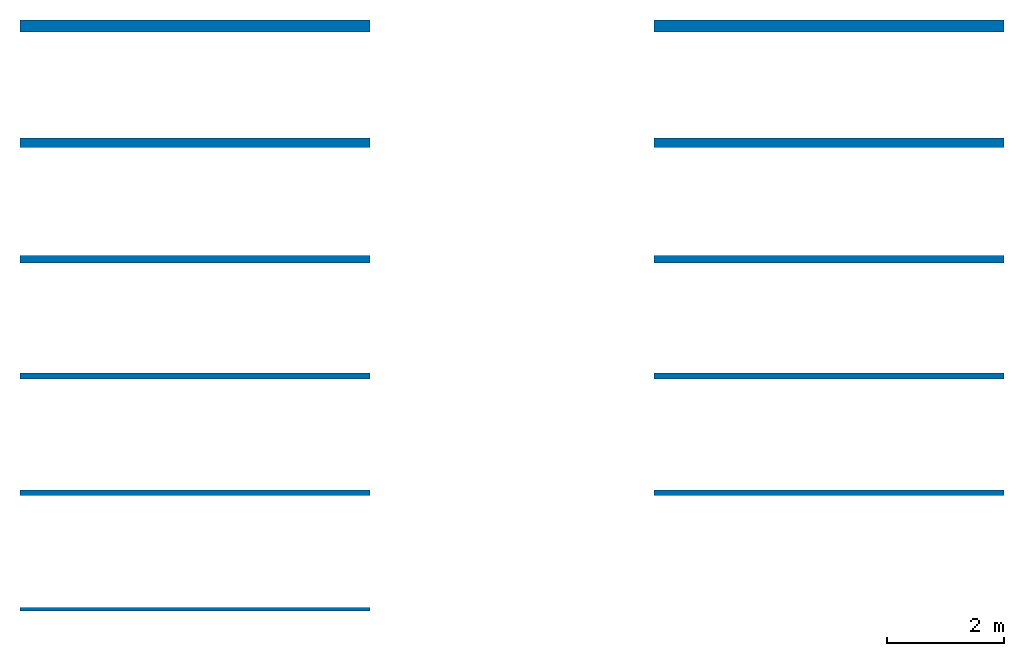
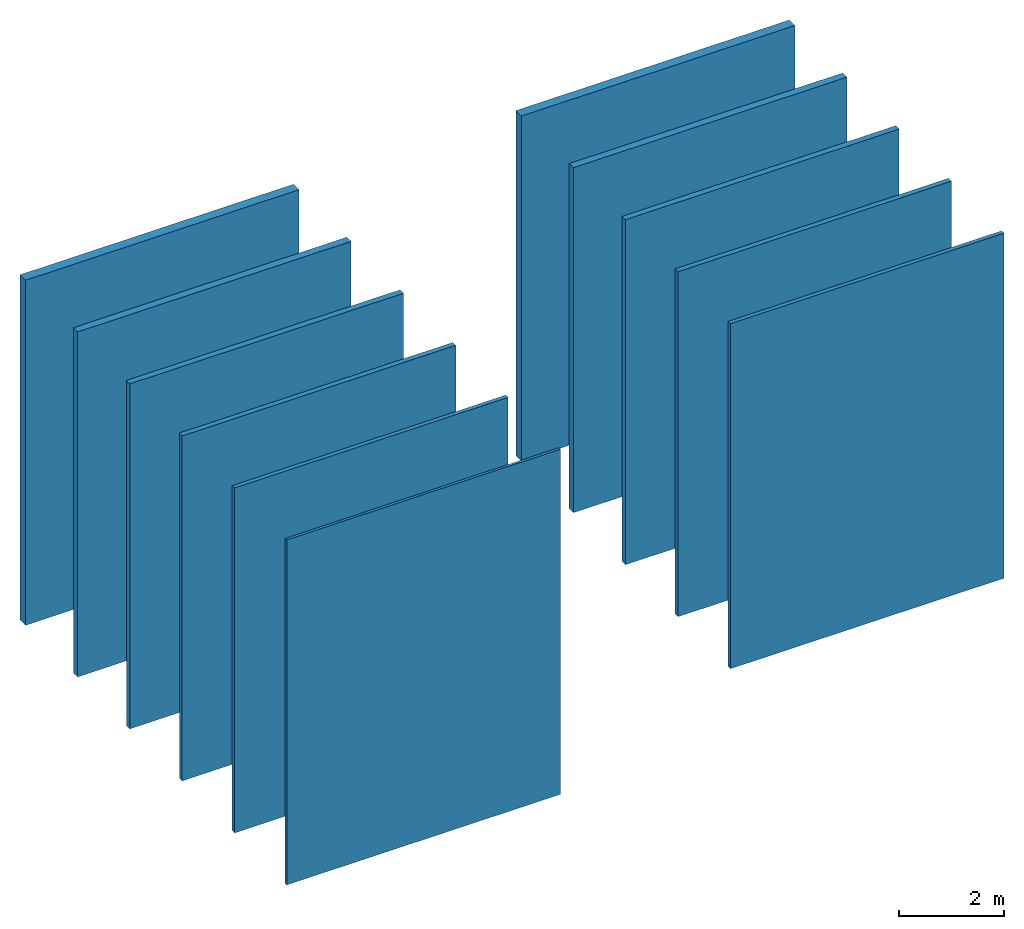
# One storey: 11 walls.
"""IFC2X3 building model written with IfcOpenShell, lengths in millimetres."""

from ifc_helpers import new_model, entity, si_unit, converted_unit, derived_unit, direction, frame, frame_2d, origin, place, context, subcontext, project, spatial, rectangle, extrude, material, layer, layer_set, layer_usage, type_object, element, save


model = new_model("IFC2X3")

# Units and contexts
model_context = context("Model", 3, precision=0.01, world=origin(), true_north=direction((6.12303176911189e-17, 1.0)))
context_of_model = context(None, 3, precision=0.01, world=origin(), true_north=direction((6.12303176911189e-17, 1.0)))
body_context = subcontext(model_context, "Body", "Model", "MODEL_VIEW")
ifc_project = project(units=[si_unit("LENGTHUNIT", "METRE", prefix="MILLI"), si_unit("AREAUNIT", "SQUARE_METRE"), si_unit("VOLUMEUNIT", "CUBIC_METRE"), converted_unit("PLANEANGLEUNIT", "DEGREE", entity("IfcRatioMeasure", 0.0174532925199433), si_unit("PLANEANGLEUNIT", "RADIAN"), dimensions=[0, 0, 0, 0, 0, 0, 0]), si_unit("MASSUNIT", "GRAM", prefix="KILO"), si_unit("TIMEUNIT", "SECOND"), si_unit("FREQUENCYUNIT", "HERTZ"), si_unit("THERMODYNAMICTEMPERATUREUNIT", "DEGREE_CELSIUS"), derived_unit("THERMALTRANSMITTANCEUNIT", [(si_unit("MASSUNIT", "GRAM", prefix="KILO"), 1), (si_unit("THERMODYNAMICTEMPERATUREUNIT", "KELVIN"), -1), (si_unit("TIMEUNIT", "SECOND"), -3)]), derived_unit("VOLUMETRICFLOWRATEUNIT", [(si_unit("LENGTHUNIT", "METRE"), 3), (si_unit("TIMEUNIT", "SECOND"), -1)]), si_unit("ELECTRICCURRENTUNIT", "AMPERE"), si_unit("ELECTRICVOLTAGEUNIT", "VOLT"), si_unit("POWERUNIT", "WATT"), si_unit("FORCEUNIT", "NEWTON", prefix="KILO"), si_unit("ILLUMINANCEUNIT", "LUX"), si_unit("LUMINOUSFLUXUNIT", "LUMEN"), si_unit("LUMINOUSINTENSITYUNIT", "CANDELA"), si_unit("PRESSUREUNIT", "PASCAL")], contexts=[model_context, context_of_model])

# Site, building, storey
site_placement = place(None, origin())
site = spatial("IfcSite", under=ifc_project, at=site_placement, Name="Default", CompositionType="ELEMENT")
building_placement = place(site_placement, origin())
building = spatial("IfcBuilding", under=site, at=building_placement, CompositionType="ELEMENT")
storey_placement = place(building_placement, origin())
storey = spatial("IfcBuildingStorey", under=building, at=storey_placement, Name="Livello 1", CompositionType="ELEMENT", Elevation=0.0)

# Walls
ifc_material_1 = material(Name="GASBETON Incollarasa")
ifc_layer_1 = layer(ifc_material_1, 5.0)
ifc_material_2 = material(Name="GASBETON Evolution")
ifc_layer_2 = layer(ifc_material_2, 200.0)
ifc_layer_3 = layer(ifc_material_1, 5.00000000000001)
ifc_layer_set_1 = layer_set([ifc_layer_1, ifc_layer_2, ifc_layer_3], Name="Muro di base:Sistema GASBETON Evolution sp. 210 mm per tramezzatura")
ifc_layer_usage_1 = layer_usage(ifc_layer_set_1, "AXIS2", "NEGATIVE", 105.0)
wall_type_1 = type_object("IfcWallType", Name="Muro di base:Sistema GASBETON Evolution sp. 210 mm per tramezzatura", PredefinedType="STANDARD", material=ifc_layer_set_1)
wall_1_placement = place(storey_placement, frame((-2530.39888114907, 7646.74124989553, 0.0), z_axis=(0.0, 0.0, 1.0), x_axis=(-1.0, 0.0, 0.0)))
element("IfcWallStandardCase", 1, at=wall_1_placement, inside=storey, type_object=wall_type_1, material=ifc_layer_usage_1, Name="Muro di base:Sistema GASBETON Evolution sp. 210 mm per tramezzatura", ObjectType="Muro di base:Sistema GASBETON Evolution sp. 210 mm per tramezzatura", context=body_context, shape_type="SweptSolid", body=[
    extrude(rectangle(XDim=6000.0, YDim=210.0, at=frame_2d((3000.0, 0.0), x_axis=(-1.0, 0.0))), origin(), (0.0, 0.0, 1.0), 8000.0),
])
ifc_layer_4 = layer(ifc_material_1, 5.0)
ifc_layer_5 = layer(ifc_material_2, 150.0)
ifc_layer_6 = layer(ifc_material_1, 5.00000000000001)
ifc_layer_set_2 = layer_set([ifc_layer_4, ifc_layer_5, ifc_layer_6], Name="Muro di base:Sistema GASBETON Evolution sp. 160 mm per tramezzatura")
ifc_layer_usage_2 = layer_usage(ifc_layer_set_2, "AXIS2", "NEGATIVE", 80.0)
wall_type_2 = type_object("IfcWallType", Name="Muro di base:Sistema GASBETON Evolution sp. 160 mm per tramezzatura", PredefinedType="STANDARD", material=ifc_layer_set_2)
wall_2_placement = place(storey_placement, frame((-2530.39888114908, 5646.74124989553, 0.0), z_axis=(0.0, 0.0, 1.0), x_axis=(-1.0, 0.0, 0.0)))
element("IfcWallStandardCase", 2, at=wall_2_placement, inside=storey, type_object=wall_type_2, material=ifc_layer_usage_2, Name="Muro di base:Sistema GASBETON Evolution sp. 160 mm per tramezzatura", ObjectType="Muro di base:Sistema GASBETON Evolution sp. 160 mm per tramezzatura", context=body_context, shape_type="SweptSolid", body=[
    extrude(rectangle(XDim=6000.0, YDim=160.0, at=frame_2d((3000.0, 0.0), x_axis=(-1.0, 0.0))), origin(), (0.0, 0.0, 1.0), 8000.0),
])
ifc_layer_7 = layer(ifc_material_1, 5.0)
ifc_layer_8 = layer(ifc_material_2, 120.0)
ifc_layer_9 = layer(ifc_material_1, 5.00000000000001)
ifc_layer_set_3 = layer_set([ifc_layer_7, ifc_layer_8, ifc_layer_9], Name="Muro di base:Sistema GASBETON Evolution sp. 130 mm per tramezzatura")
ifc_layer_usage_3 = layer_usage(ifc_layer_set_3, "AXIS2", "NEGATIVE", 65.0)
wall_type_3 = type_object("IfcWallType", Name="Muro di base:Sistema GASBETON Evolution sp. 130 mm per tramezzatura", PredefinedType="STANDARD", material=ifc_layer_set_3)
wall_3_placement = place(storey_placement, frame((-2530.39888114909, 3646.74124989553, 0.0), z_axis=(0.0, 0.0, 1.0), x_axis=(-1.0, 0.0, 0.0)))
element("IfcWallStandardCase", 3, at=wall_3_placement, inside=storey, type_object=wall_type_3, material=ifc_layer_usage_3, Name="Muro di base:Sistema GASBETON Evolution sp. 130 mm per tramezzatura", ObjectType="Muro di base:Sistema GASBETON Evolution sp. 130 mm per tramezzatura", context=body_context, shape_type="SweptSolid", body=[
    extrude(rectangle(XDim=6000.0, YDim=130.0, at=frame_2d((3000.0, 0.0), x_axis=(-1.0, 0.0))), origin(), (0.0, 0.0, 1.0), 8000.0),
])
ifc_layer_10 = layer(ifc_material_1, 5.0)
ifc_layer_11 = layer(ifc_material_2, 100.0)
ifc_layer_12 = layer(ifc_material_1, 5.00000000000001)
ifc_layer_set_4 = layer_set([ifc_layer_10, ifc_layer_11, ifc_layer_12], Name="Muro di base:Sistema GASBETON Evolution sp. 110 mm per tramezzatura")
ifc_layer_usage_4 = layer_usage(ifc_layer_set_4, "AXIS2", "NEGATIVE", 55.0)
wall_type_4 = type_object("IfcWallType", Name="Muro di base:Sistema GASBETON Evolution sp. 110 mm per tramezzatura", PredefinedType="STANDARD", material=ifc_layer_set_4)
wall_4_placement = place(storey_placement, frame((-2530.39888114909, 1646.74124989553, 0.0), z_axis=(0.0, 0.0, 1.0), x_axis=(-1.0, 0.0, 0.0)))
element("IfcWallStandardCase", 4, at=wall_4_placement, inside=storey, type_object=wall_type_4, material=ifc_layer_usage_4, Name="Muro di base:Sistema GASBETON Evolution sp. 110 mm per tramezzatura", ObjectType="Muro di base:Sistema GASBETON Evolution sp. 110 mm per tramezzatura", context=body_context, shape_type="SweptSolid", body=[
    extrude(rectangle(XDim=6000.0, YDim=110.0, at=frame_2d((3000.0, 0.0), x_axis=(-1.0, 0.0))), origin(), (0.0, 0.0, 1.0), 8000.0),
])
ifc_layer_13 = layer(ifc_material_1, 5.0)
ifc_layer_14 = layer(ifc_material_2, 80.0)
ifc_layer_15 = layer(ifc_material_1, 5.00000000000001)
ifc_layer_set_5 = layer_set([ifc_layer_13, ifc_layer_14, ifc_layer_15], Name="Muro di base:Sistema GASBETON Evolution sp. 90 mm per tramezzatura")
ifc_layer_usage_5 = layer_usage(ifc_layer_set_5, "AXIS2", "NEGATIVE", 45.0)
wall_type_5 = type_object("IfcWallType", Name="Muro di base:Sistema GASBETON Evolution sp. 90 mm per tramezzatura", PredefinedType="STANDARD", material=ifc_layer_set_5)
wall_5_placement = place(storey_placement, frame((-2530.3988811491, -353.258750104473, 0.0), z_axis=(0.0, 0.0, 1.0), x_axis=(-1.0, 0.0, 0.0)))
element("IfcWallStandardCase", 5, at=wall_5_placement, inside=storey, type_object=wall_type_5, material=ifc_layer_usage_5, Name="Muro di base:Sistema GASBETON Evolution sp. 90 mm per tramezzatura", ObjectType="Muro di base:Sistema GASBETON Evolution sp. 90 mm per tramezzatura", context=body_context, shape_type="SweptSolid", body=[
    extrude(rectangle(XDim=6000.0, YDim=90.0, at=frame_2d((3000.0, 0.0), x_axis=(-1.0, 0.0))), origin(), (0.0, 0.0, 1.0), 8000.0),
])
ifc_layer_16 = layer(ifc_material_1, 5.0)
ifc_layer_17 = layer(ifc_material_2, 50.0)
ifc_layer_18 = layer(ifc_material_1, 5.00000000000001)
ifc_layer_set_6 = layer_set([ifc_layer_16, ifc_layer_17, ifc_layer_18], Name="Muro di base:Sistema GASBETON Evolution sp. 60 mm per tramezzatura")
ifc_layer_usage_6 = layer_usage(ifc_layer_set_6, "AXIS2", "NEGATIVE", 30.0)
wall_type_6 = type_object("IfcWallType", Name="Muro di base:Sistema GASBETON Evolution sp. 60 mm per tramezzatura", PredefinedType="STANDARD", material=ifc_layer_set_6)
wall_6_placement = place(storey_placement, frame((-2530.39888114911, -2353.25875010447, 0.0), z_axis=(0.0, 0.0, 1.0), x_axis=(-1.0, 0.0, 0.0)))
element("IfcWallStandardCase", 6, at=wall_6_placement, inside=storey, type_object=wall_type_6, material=ifc_layer_usage_6, Name="Muro di base:Sistema GASBETON Evolution sp. 60 mm per tramezzatura", ObjectType="Muro di base:Sistema GASBETON Evolution sp. 60 mm per tramezzatura", context=body_context, shape_type="SweptSolid", body=[
    extrude(rectangle(XDim=6000.0, YDim=59.9999999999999, at=frame_2d((3000.0, 0.0), x_axis=(-1.0, 0.0))), origin(), (0.0, 0.0, 1.0), 8000.0),
])
ifc_layer_19 = layer(ifc_material_1, 5.0)
ifc_layer_20 = layer(ifc_material_2, 200.0)
ifc_layer_21 = layer(ifc_material_1, 5.00000000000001)
ifc_layer_set_7 = layer_set([ifc_layer_19, ifc_layer_20, ifc_layer_21], Name="Muro di base:Sistema GASBETON Evolution+IDRO sp. 210 mm per tramezzatura")
ifc_layer_usage_7 = layer_usage(ifc_layer_set_7, "AXIS2", "NEGATIVE", 105.0)
wall_type_7 = type_object("IfcWallType", Name="Muro di base:Sistema GASBETON Evolution+IDRO sp. 210 mm per tramezzatura", PredefinedType="STANDARD", material=ifc_layer_set_7)
wall_7_placement = place(storey_placement, frame((8342.99931806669, 7646.74124989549, 0.0), z_axis=(0.0, 0.0, 1.0), x_axis=(-1.0, 0.0, 0.0)))
element("IfcWallStandardCase", 7, at=wall_7_placement, inside=storey, type_object=wall_type_7, material=ifc_layer_usage_7, Name="Muro di base:Sistema GASBETON Evolution+IDRO sp. 210 mm per tramezzatura", ObjectType="Muro di base:Sistema GASBETON Evolution+IDRO sp. 210 mm per tramezzatura", context=body_context, shape_type="SweptSolid", body=[
    extrude(rectangle(XDim=6000.0, YDim=210.0, at=frame_2d((3000.0, 0.0), x_axis=(-1.0, 0.0))), origin(), (0.0, 0.0, 1.0), 8000.0),
])
ifc_layer_22 = layer(ifc_material_1, 5.0)
ifc_layer_23 = layer(ifc_material_2, 150.0)
ifc_layer_24 = layer(ifc_material_1, 5.00000000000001)
ifc_layer_set_8 = layer_set([ifc_layer_22, ifc_layer_23, ifc_layer_24], Name="Muro di base:Sistema GASBETON Evolution+IDRO sp. 160 mm per tramezzatura")
ifc_layer_usage_8 = layer_usage(ifc_layer_set_8, "AXIS2", "NEGATIVE", 80.0)
wall_type_8 = type_object("IfcWallType", Name="Muro di base:Sistema GASBETON Evolution+IDRO sp. 160 mm per tramezzatura", PredefinedType="STANDARD", material=ifc_layer_set_8)
wall_8_placement = place(storey_placement, frame((8342.99931806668, 5646.74124989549, 0.0), z_axis=(0.0, 0.0, 1.0), x_axis=(-1.0, 0.0, 0.0)))
element("IfcWallStandardCase", 8, at=wall_8_placement, inside=storey, type_object=wall_type_8, material=ifc_layer_usage_8, Name="Muro di base:Sistema GASBETON Evolution+IDRO sp. 160 mm per tramezzatura", ObjectType="Muro di base:Sistema GASBETON Evolution+IDRO sp. 160 mm per tramezzatura", context=body_context, shape_type="SweptSolid", body=[
    extrude(rectangle(XDim=6000.0, YDim=160.0, at=frame_2d((3000.0, 0.0), x_axis=(-1.0, 0.0))), origin(), (0.0, 0.0, 1.0), 8000.0),
])
ifc_layer_25 = layer(ifc_material_1, 5.0)
ifc_layer_26 = layer(ifc_material_2, 120.0)
ifc_layer_27 = layer(ifc_material_1, 5.00000000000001)
ifc_layer_set_9 = layer_set([ifc_layer_25, ifc_layer_26, ifc_layer_27], Name="Muro di base:Sistema GASBETON Evolution+IDRO sp. 130 mm per tramezzatura")
ifc_layer_usage_9 = layer_usage(ifc_layer_set_9, "AXIS2", "NEGATIVE", 65.0)
wall_type_9 = type_object("IfcWallType", Name="Muro di base:Sistema GASBETON Evolution+IDRO sp. 130 mm per tramezzatura", PredefinedType="STANDARD", material=ifc_layer_set_9)
wall_9_placement = place(storey_placement, frame((8342.99931806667, 3646.74124989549, 0.0), z_axis=(0.0, 0.0, 1.0), x_axis=(-1.0, 0.0, 0.0)))
element("IfcWallStandardCase", 9, at=wall_9_placement, inside=storey, type_object=wall_type_9, material=ifc_layer_usage_9, Name="Muro di base:Sistema GASBETON Evolution+IDRO sp. 130 mm per tramezzatura", ObjectType="Muro di base:Sistema GASBETON Evolution+IDRO sp. 130 mm per tramezzatura", context=body_context, shape_type="SweptSolid", body=[
    extrude(rectangle(XDim=6000.0, YDim=130.0, at=frame_2d((3000.0, 0.0), x_axis=(-1.0, 0.0))), origin(), (0.0, 0.0, 1.0), 8000.0),
])
ifc_layer_28 = layer(ifc_material_1, 5.0)
ifc_layer_29 = layer(ifc_material_2, 100.0)
ifc_layer_30 = layer(ifc_material_1, 5.00000000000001)
ifc_layer_set_10 = layer_set([ifc_layer_28, ifc_layer_29, ifc_layer_30], Name="Muro di base:Sistema GASBETON Evolution+IDRO sp. 110 mm per tramezzatura")
ifc_layer_usage_10 = layer_usage(ifc_layer_set_10, "AXIS2", "NEGATIVE", 55.0)
wall_type_10 = type_object("IfcWallType", Name="Muro di base:Sistema GASBETON Evolution+IDRO sp. 110 mm per tramezzatura", PredefinedType="STANDARD", material=ifc_layer_set_10)
wall_10_placement = place(storey_placement, frame((8342.99931806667, 1646.74124989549, 0.0), z_axis=(0.0, 0.0, 1.0), x_axis=(-1.0, 0.0, 0.0)))
element("IfcWallStandardCase", 10, at=wall_10_placement, inside=storey, type_object=wall_type_10, material=ifc_layer_usage_10, Name="Muro di base:Sistema GASBETON Evolution+IDRO sp. 110 mm per tramezzatura", ObjectType="Muro di base:Sistema GASBETON Evolution+IDRO sp. 110 mm per tramezzatura", context=body_context, shape_type="SweptSolid", body=[
    extrude(rectangle(XDim=6000.0, YDim=110.0, at=frame_2d((3000.0, 0.0), x_axis=(-1.0, 0.0))), origin(), (0.0, 0.0, 1.0), 8000.0),
])
ifc_layer_31 = layer(ifc_material_1, 5.0)
ifc_layer_32 = layer(ifc_material_2, 80.0)
ifc_layer_33 = layer(ifc_material_1, 5.00000000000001)
ifc_layer_set_11 = layer_set([ifc_layer_31, ifc_layer_32, ifc_layer_33], Name="Muro di base:Sistema GASBETON Evolution+IDRO sp. 90 mm per tramezzatura")
ifc_layer_usage_11 = layer_usage(ifc_layer_set_11, "AXIS2", "NEGATIVE", 45.0)
wall_type_11 = type_object("IfcWallType", Name="Muro di base:Sistema GASBETON Evolution+IDRO sp. 90 mm per tramezzatura", PredefinedType="STANDARD", material=ifc_layer_set_11)
wall_11_placement = place(storey_placement, frame((8342.99931806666, -353.258750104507, 0.0), z_axis=(0.0, 0.0, 1.0), x_axis=(-1.0, 0.0, 0.0)))
element("IfcWallStandardCase", 11, at=wall_11_placement, inside=storey, type_object=wall_type_11, material=ifc_layer_usage_11, Name="Muro di base:Sistema GASBETON Evolution+IDRO sp. 90 mm per tramezzatura", ObjectType="Muro di base:Sistema GASBETON Evolution+IDRO sp. 90 mm per tramezzatura", context=body_context, shape_type="SweptSolid", body=[
    extrude(rectangle(XDim=6000.0, YDim=90.0, at=frame_2d((3000.0, 0.0), x_axis=(-1.0, 0.0))), origin(), (0.0, 0.0, 1.0), 8000.0),
])

save(model, "model.ifc")
